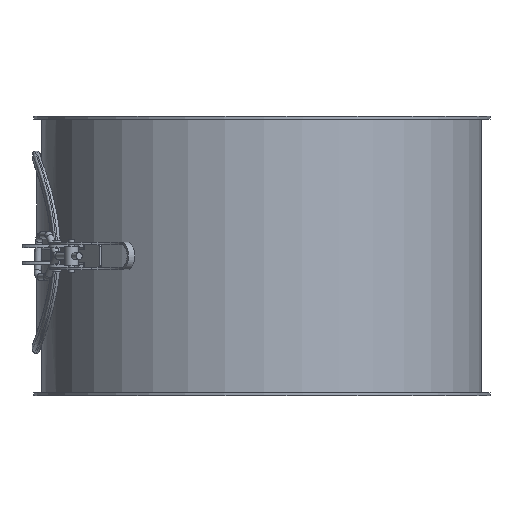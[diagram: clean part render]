
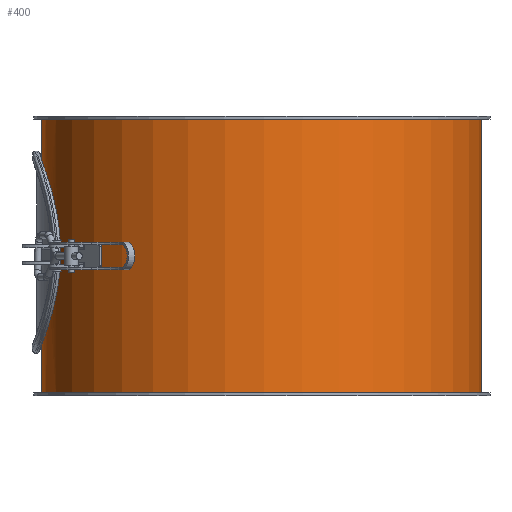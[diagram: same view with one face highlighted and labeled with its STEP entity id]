
A CAD part, front view. The second image highlights one B-rep face of the part: STEP entity #400.
In plain terms, the highlighted cylindrical face has radius 157.5 mm (diameter 315 mm), a full revolution.
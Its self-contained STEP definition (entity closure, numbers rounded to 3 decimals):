
#143=CARTESIAN_POINT('',(157.5,0.,198.0));
#144=VERTEX_POINT('',#143);
#145=CARTESIAN_POINT('',(0.0,0.0,198.0));
#146=DIRECTION('',(0.0,0.0,-1.0));
#147=DIRECTION('',(-1.0,0.0,0.0));
#148=AXIS2_PLACEMENT_3D('',#145,#146,#147);
#149=CIRCLE('',#148,157.5);
#150=EDGE_CURVE('',#144,#144,#149,.T.);
#191=CARTESIAN_POINT('',(-157.5,0.,2.0));
#192=VERTEX_POINT('',#191);
#193=CARTESIAN_POINT('',(0.0,0.0,2.0));
#194=DIRECTION('',(0.0,0.0,1.0));
#195=DIRECTION('',(-1.0,0.0,0.0));
#196=AXIS2_PLACEMENT_3D('',#193,#194,#195);
#197=CIRCLE('',#196,157.5);
#198=EDGE_CURVE('',#192,#192,#197,.T.);
#281=CARTESIAN_POINT('',(-146.629,-57.5,100.0));
#282=VERTEX_POINT('',#281);
#283=CARTESIAN_POINT('',(-146.629,-57.5,100.0));
#284=CARTESIAN_POINT('',(-146.629,-57.5,96.352));
#285=CARTESIAN_POINT('',(-146.769,-57.147,92.592));
#286=CARTESIAN_POINT('',(-147.333,-55.675,85.135));
#287=CARTESIAN_POINT('',(-147.758,-54.556,81.438));
#288=CARTESIAN_POINT('',(-148.811,-51.612,74.366));
#289=CARTESIAN_POINT('',(-149.441,-49.785,70.985));
#290=CARTESIAN_POINT('',(-150.778,-45.576,64.74));
#291=CARTESIAN_POINT('',(-151.484,-43.193,61.876));
#292=CARTESIAN_POINT('',(-152.838,-38.126,56.808));
#293=CARTESIAN_POINT('',(-153.535,-35.263,54.426));
#294=CARTESIAN_POINT('',(-154.837,-29.017,50.216));
#295=CARTESIAN_POINT('',(-155.441,-25.634,48.388));
#296=CARTESIAN_POINT('',(-156.443,-18.56,45.443));
#297=CARTESIAN_POINT('',(-156.842,-14.862,44.324));
#298=CARTESIAN_POINT('',(-157.37,-7.405,42.852));
#299=CARTESIAN_POINT('',(-157.5,-3.645,42.5));
#300=CARTESIAN_POINT('',(-157.5,3.645,42.5));
#301=CARTESIAN_POINT('',(-157.37,7.405,42.852));
#302=CARTESIAN_POINT('',(-156.842,14.862,44.324));
#303=CARTESIAN_POINT('',(-156.443,18.56,45.443));
#304=CARTESIAN_POINT('',(-155.441,25.634,48.388));
#305=CARTESIAN_POINT('',(-154.837,29.017,50.216));
#306=CARTESIAN_POINT('',(-153.535,35.263,54.426));
#307=CARTESIAN_POINT('',(-152.838,38.126,56.808));
#308=CARTESIAN_POINT('',(-151.484,43.193,61.876));
#309=CARTESIAN_POINT('',(-150.778,45.576,64.74));
#310=CARTESIAN_POINT('',(-149.441,49.785,70.985));
#311=CARTESIAN_POINT('',(-148.811,51.612,74.366));
#312=CARTESIAN_POINT('',(-147.758,54.556,81.438));
#313=CARTESIAN_POINT('',(-147.333,55.675,85.135));
#314=CARTESIAN_POINT('',(-146.769,57.147,92.592));
#315=CARTESIAN_POINT('',(-146.629,57.5,96.352));
#316=CARTESIAN_POINT('',(-146.629,57.5,103.648));
#317=CARTESIAN_POINT('',(-146.769,57.147,107.408));
#318=CARTESIAN_POINT('',(-147.333,55.675,114.865));
#319=CARTESIAN_POINT('',(-147.758,54.556,118.562));
#320=CARTESIAN_POINT('',(-148.811,51.612,125.634));
#321=CARTESIAN_POINT('',(-149.441,49.785,129.015));
#322=CARTESIAN_POINT('',(-150.778,45.576,135.26));
#323=CARTESIAN_POINT('',(-151.484,43.193,138.124));
#324=CARTESIAN_POINT('',(-152.838,38.126,143.192));
#325=CARTESIAN_POINT('',(-153.535,35.263,145.574));
#326=CARTESIAN_POINT('',(-154.837,29.017,149.784));
#327=CARTESIAN_POINT('',(-155.441,25.634,151.612));
#328=CARTESIAN_POINT('',(-156.443,18.56,154.557));
#329=CARTESIAN_POINT('',(-156.842,14.862,155.676));
#330=CARTESIAN_POINT('',(-157.37,7.405,157.148));
#331=CARTESIAN_POINT('',(-157.5,3.645,157.5));
#332=CARTESIAN_POINT('',(-157.5,-3.645,157.5));
#333=CARTESIAN_POINT('',(-157.37,-7.405,157.148));
#334=CARTESIAN_POINT('',(-156.842,-14.862,155.676));
#335=CARTESIAN_POINT('',(-156.443,-18.56,154.557));
#336=CARTESIAN_POINT('',(-155.441,-25.634,151.612));
#337=CARTESIAN_POINT('',(-154.837,-29.017,149.784));
#338=CARTESIAN_POINT('',(-153.535,-35.263,145.574));
#339=CARTESIAN_POINT('',(-152.838,-38.126,143.192));
#340=CARTESIAN_POINT('',(-151.484,-43.193,138.124));
#341=CARTESIAN_POINT('',(-150.778,-45.576,135.26));
#342=CARTESIAN_POINT('',(-149.441,-49.785,129.015));
#343=CARTESIAN_POINT('',(-148.811,-51.612,125.634));
#344=CARTESIAN_POINT('',(-147.758,-54.556,118.562));
#345=CARTESIAN_POINT('',(-147.333,-55.675,114.865));
#346=CARTESIAN_POINT('',(-146.769,-57.147,107.408));
#347=CARTESIAN_POINT('',(-146.629,-57.5,103.648));
#348=CARTESIAN_POINT('',(-146.629,-57.5,100.));
#349=B_SPLINE_CURVE_WITH_KNOTS('',3,(#283,#284,#285,#286,#287,#288,#289,#290,#291,#292,#293,#294,#295,#296,#297,#298,#299,#300,#301,#302,#303,#304,#305,#306,#307,#308,#309,#310,#311,#312,#313,#314,#315,#316,#317,#318,#319,#320,#321,#322,#323,#324,#325,#326,#327,#328,#329,#330,#331,#332,#333,#334,#335,#336,#337,#338,#339,#340,#341,#342,#343,#344,#345,#346,#347,#348),.UNSPECIFIED.,.T.,.U.,(4,2,2,2,2,2,2,2,2,2,2,2,2,2,2,2,2,2,2,2,2,2,2,2,2,2,2,2,2,2,2,2,4),(0.0,1.094,2.189,3.283,4.378,5.471,6.565,7.658,8.752,9.846,10.939,12.033,13.127,14.221,15.315,16.41,17.504,18.599,19.693,20.787,21.882,22.975,24.069,25.163,26.256,27.35,28.444,29.537,30.631,31.725,32.82,33.914,35.008),.UNSPECIFIED.);
#350=EDGE_CURVE('',#282,#282,#349,.T.);
#386=CARTESIAN_POINT('',(0.0,0.0,0.0));
#387=DIRECTION('',(0.0,0.0,1.0));
#388=DIRECTION('',(-1.0,0.0,0.0));
#389=AXIS2_PLACEMENT_3D('',#386,#387,#388);
#390=CYLINDRICAL_SURFACE('',#389,157.5);
#391=ORIENTED_EDGE('',*,*,#150,.T.);
#392=EDGE_LOOP('',(#391));
#393=FACE_OUTER_BOUND('',#392,.T.);
#394=ORIENTED_EDGE('',*,*,#198,.T.);
#395=EDGE_LOOP('',(#394));
#396=FACE_BOUND('',#395,.T.);
#397=ORIENTED_EDGE('',*,*,#350,.T.);
#398=EDGE_LOOP('',(#397));
#399=FACE_BOUND('',#398,.T.);
#400=ADVANCED_FACE('',(#393,#396,#399),#390,.T.);
